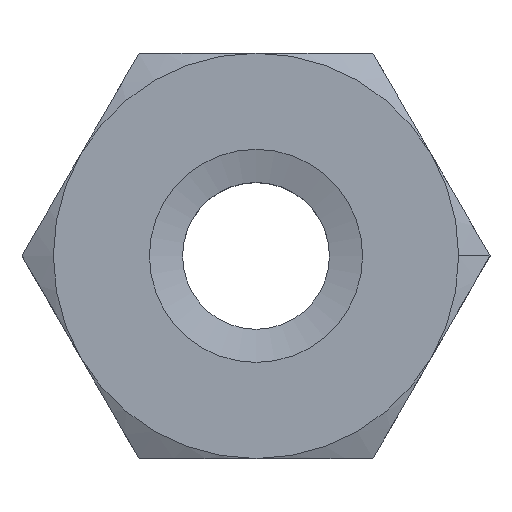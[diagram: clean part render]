
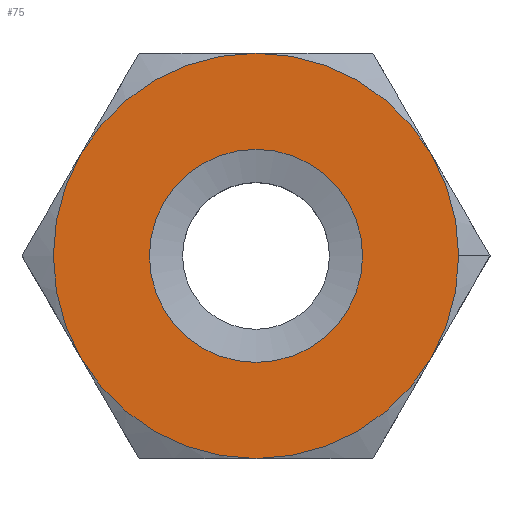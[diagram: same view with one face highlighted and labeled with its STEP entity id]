
A CAD part, top view. The second image highlights one B-rep face of the part: STEP entity #75.
In plain terms, the highlighted planar face has unit normal (0, 0, 1).
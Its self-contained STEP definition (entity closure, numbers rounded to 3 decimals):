
#31 = VERTEX_POINT('',#32);
#32 = CARTESIAN_POINT('',(1.229,0.,-0.438));
#38 = EDGE_CURVE('',#31,#31,#39,.T.);
#39 = CIRCLE('',#40,1.229);
#40 = AXIS2_PLACEMENT_3D('',#41,#42,#43);
#41 = CARTESIAN_POINT('',(0.,0.,-0.438));
#42 = DIRECTION('',(0.,0.,1.));
#43 = DIRECTION('',(1.,0.,0.));
#75 = ADVANCED_FACE('',(#76,#79),#144,.T.);
#76 = FACE_BOUND('',#77,.F.);
#77 = EDGE_LOOP('',(#78));
#78 = ORIENTED_EDGE('',*,*,#38,.T.);
#79 = FACE_BOUND('',#80,.F.);
#80 = EDGE_LOOP('',(#81,#92,#101,#110,#119,#128,#137));
#81 = ORIENTED_EDGE('',*,*,#82,.F.);
#82 = EDGE_CURVE('',#83,#85,#87,.T.);
#83 = VERTEX_POINT('',#84);
#84 = CARTESIAN_POINT('',(2.337,0.,-0.438));
#85 = VERTEX_POINT('',#86);
#86 = CARTESIAN_POINT('',(2.024,1.168,-0.438));
#87 = CIRCLE('',#88,2.337);
#88 = AXIS2_PLACEMENT_3D('',#89,#90,#91);
#89 = CARTESIAN_POINT('',(0.,0.,-0.438));
#90 = DIRECTION('',(0.,0.,1.));
#91 = DIRECTION('',(1.,0.,0.));
#92 = ORIENTED_EDGE('',*,*,#93,.F.);
#93 = EDGE_CURVE('',#94,#83,#96,.T.);
#94 = VERTEX_POINT('',#95);
#95 = CARTESIAN_POINT('',(2.024,-1.168,-0.438));
#96 = CIRCLE('',#97,2.337);
#97 = AXIS2_PLACEMENT_3D('',#98,#99,#100);
#98 = CARTESIAN_POINT('',(0.,0.,-0.438));
#99 = DIRECTION('',(0.,0.,1.));
#100 = DIRECTION('',(1.,0.,0.));
#101 = ORIENTED_EDGE('',*,*,#102,.F.);
#102 = EDGE_CURVE('',#103,#94,#105,.T.);
#103 = VERTEX_POINT('',#104);
#104 = CARTESIAN_POINT('',(0.,-2.337,-0.438));
#105 = CIRCLE('',#106,2.337);
#106 = AXIS2_PLACEMENT_3D('',#107,#108,#109);
#107 = CARTESIAN_POINT('',(0.,0.,-0.438));
#108 = DIRECTION('',(0.,0.,1.));
#109 = DIRECTION('',(1.,0.,0.));
#110 = ORIENTED_EDGE('',*,*,#111,.F.);
#111 = EDGE_CURVE('',#112,#103,#114,.T.);
#112 = VERTEX_POINT('',#113);
#113 = CARTESIAN_POINT('',(-2.024,-1.168,-0.438));
#114 = CIRCLE('',#115,2.337);
#115 = AXIS2_PLACEMENT_3D('',#116,#117,#118);
#116 = CARTESIAN_POINT('',(0.,0.,-0.438));
#117 = DIRECTION('',(0.,0.,1.));
#118 = DIRECTION('',(1.,0.,0.));
#119 = ORIENTED_EDGE('',*,*,#120,.F.);
#120 = EDGE_CURVE('',#121,#112,#123,.T.);
#121 = VERTEX_POINT('',#122);
#122 = CARTESIAN_POINT('',(-2.024,1.168,-0.438));
#123 = CIRCLE('',#124,2.337);
#124 = AXIS2_PLACEMENT_3D('',#125,#126,#127);
#125 = CARTESIAN_POINT('',(0.,0.,-0.438));
#126 = DIRECTION('',(0.,0.,1.));
#127 = DIRECTION('',(1.,0.,0.));
#128 = ORIENTED_EDGE('',*,*,#129,.F.);
#129 = EDGE_CURVE('',#130,#121,#132,.T.);
#130 = VERTEX_POINT('',#131);
#131 = CARTESIAN_POINT('',(0.,2.337,-0.438));
#132 = CIRCLE('',#133,2.337);
#133 = AXIS2_PLACEMENT_3D('',#134,#135,#136);
#134 = CARTESIAN_POINT('',(0.,0.,-0.438));
#135 = DIRECTION('',(0.,0.,1.));
#136 = DIRECTION('',(1.,0.,0.));
#137 = ORIENTED_EDGE('',*,*,#138,.F.);
#138 = EDGE_CURVE('',#85,#130,#139,.T.);
#139 = CIRCLE('',#140,2.337);
#140 = AXIS2_PLACEMENT_3D('',#141,#142,#143);
#141 = CARTESIAN_POINT('',(0.,0.,-0.438));
#142 = DIRECTION('',(0.,0.,1.));
#143 = DIRECTION('',(1.,0.,0.));
#144 = PLANE('',#145);
#145 = AXIS2_PLACEMENT_3D('',#146,#147,#148);
#146 = CARTESIAN_POINT('',(0.,0.,-0.438));
#147 = DIRECTION('',(0.,0.,1.));
#148 = DIRECTION('',(1.,-0.,-0.));
